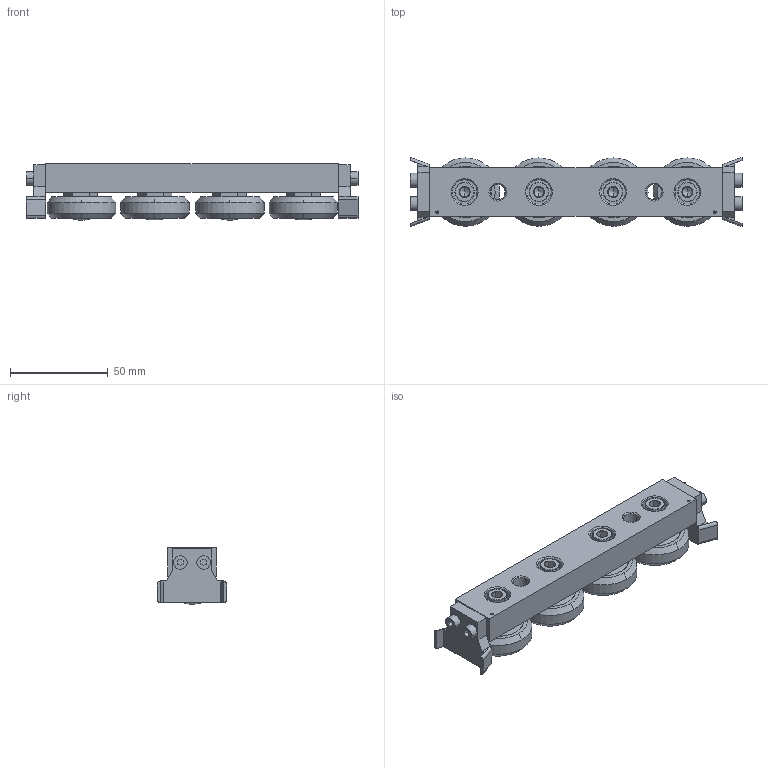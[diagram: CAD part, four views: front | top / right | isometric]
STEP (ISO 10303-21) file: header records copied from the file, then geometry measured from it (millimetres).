
FILE_DESCRIPTION (( 'STEP AP203' ), '1' );
FILE_NAME ('L1943.CSW43-150-2RSUA.step', '2019-03-13T08:17:04', ( '' ), ( '' ), 'SwSTEP 2.0', 'SolidWorks 2017', '' );
FILE_SCHEMA (( 'CONFIG_CONTROL_DESIGN' ));
Length unit declared in the file: millimetre
Products named in the file (6): Part5; Part1_L1943.CSW43-150-2RSUA; Part7; Part8; Part4; L1943.CSW43-150-2RSUA
Assembly tree (11 placements, depth 2):
  L1943.CSW43-150-2RSUA
    Part1_L1943.CSW43-150-2RSUA
    Part8  x4
    Part4  x2
    Part5  x2
    Part7  x2
Bounding box: 170 x 35.4 x 28.88 mm (x, y, z)
Volume: 98741.3 mm3; surface area: 34719.5 mm2
Topology: 11 solids, 11 shells, 408 faces, 908 edges, 554 vertices
Faces by surface type: plane 190, cone 128, cylinder 76, torus 8, bspline 6
Entity records: 6892 total; most frequent: CARTESIAN_POINT 1284, DIRECTION 1075, ORIENTED_EDGE 934, EDGE_CURVE 467, AXIS2_PLACEMENT_3D 410, VERTEX_POINT 295, LINE 255, VECTOR 255
